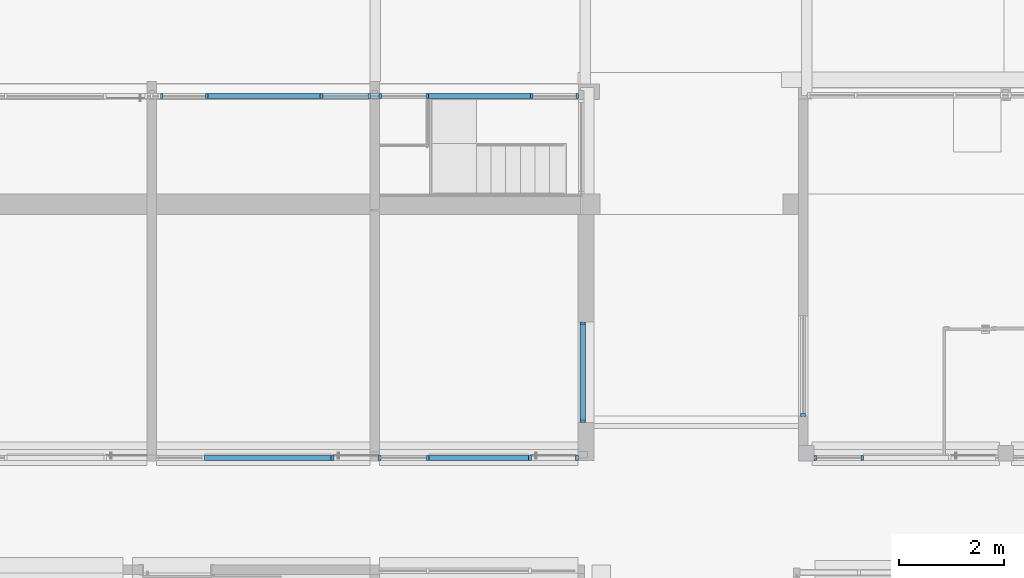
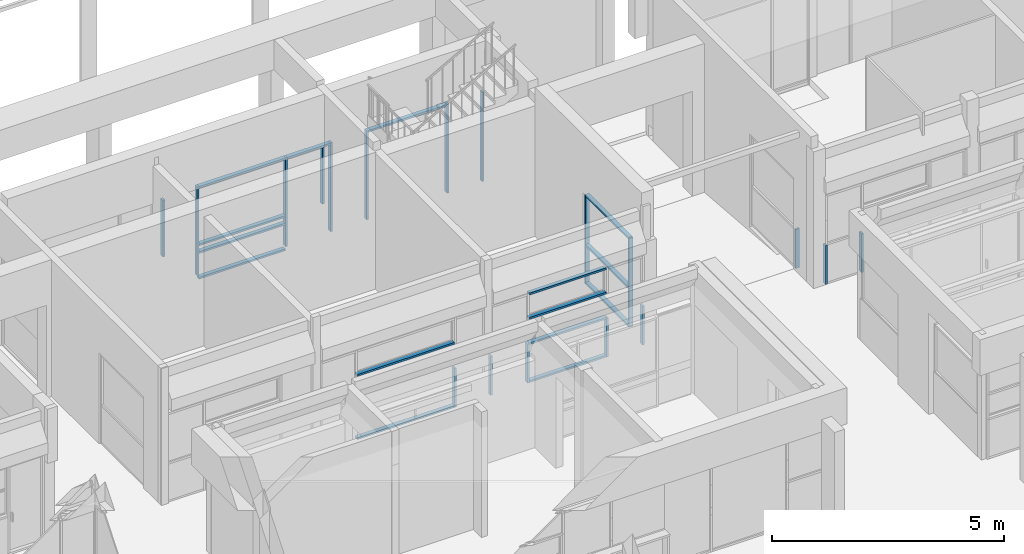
# One storey, part 9 of 117: 35 members, 6 elements without a shape of their own.
"""IFC4 building model written with IfcOpenShell, lengths in metres."""

import ifcopenshell
import ifcopenshell.guid

model = None  # the IFC model being written
_history = None  # IfcOwnerHistory: only IFC2X3 demands one
_inside = {}  # id of a spatial element -> (the spatial element, [elements in it])
_under = {}  # id of a project, library or spatial element -> (it, [spatial elements below it])
_declared = {}  # id of a project -> (the project, [libraries it declares])
_typed = {}  # id of a type object -> (the type object, [elements of that type])
_made_of = {}  # id of a material, layer set ... -> (it, [elements and type objects made of it])


def new_model(schema):
    """Start an empty IFC model of exactly this schema.

    Asked for "IFC4X3", IfcOpenShell would pick the latest addendum, in which some entities
    have other attributes; the version numbers below select the first issue.
    IFC2X3 requires an IfcOwnerHistory on every rooted entity: one is made here for all.
    """
    global model, _history
    if schema == "IFC4X3":
        model = ifcopenshell.file(schema_version=(4, 3, 0, 0))
    else:
        model = ifcopenshell.file(schema=schema)
    _inside.clear()
    _under.clear()
    _declared.clear()
    _typed.clear()
    _made_of.clear()
    _history = None
    if model.schema == "IFC2X3":
        org = make("IfcOrganization", Name="unknown")
        user = make(
            "IfcPersonAndOrganization",
            ThePerson=make("IfcPerson", FamilyName="unknown"),
            TheOrganization=org,
        )
        app = make(
            "IfcApplication",
            ApplicationDeveloper=org,
            Version="unknown",
            ApplicationFullName="unknown",
            ApplicationIdentifier="unknown",
        )
        _history = make(
            "IfcOwnerHistory",
            OwningUser=user,
            OwningApplication=app,
            ChangeAction="ADDED",
            CreationDate=0,
        )
    return model


def make(cls, **values):
    """One entity of the class cls with the attributes given. An attribute that is None is left unset."""
    return model.create_entity(
        cls, **{name: value for name, value in values.items() if value is not None}
    )


def entity(cls, *values):
    """Any entity or typed value of the class cls, its attributes in the order of the schema. None: left unset."""
    e = model.create_entity(cls)
    for i, value in enumerate(values):
        if value is not None:
            e[i] = value
    return e


def rooted(cls, **values):
    """An entity with a GlobalId (a new one), such as an element, a storey or a relation."""
    return make(cls, GlobalId=ifcopenshell.guid.new(), OwnerHistory=_history, **values)


def si_unit(unit_type, name, prefix=None):
    """IfcSIUnit, for example si_unit("LENGTHUNIT", "METRE", prefix="MILLI")."""
    return make("IfcSIUnit", UnitType=unit_type, Prefix=prefix, Name=name)


def converted_unit(unit_type, name, factor, base, dimensions=None, offset=None):
    """IfcConversionBasedUnit, such as the inch: factor (a typed value) times the base unit."""
    return make(
        "IfcConversionBasedUnit"
        if offset is None
        else "IfcConversionBasedUnitWithOffset",
        ConversionOffset=offset,
        Dimensions=None
        if dimensions is None
        else entity("IfcDimensionalExponents", *dimensions),
        UnitType=unit_type,
        Name=name,
        ConversionFactor=make(
            "IfcMeasureWithUnit", ValueComponent=factor, UnitComponent=base
        ),
    )


def derived_unit(unit_type, elements):
    """IfcDerivedUnit: a product of units, each with its exponent."""
    return make(
        "IfcDerivedUnit",
        Elements=[
            make("IfcDerivedUnitElement", Unit=unit, Exponent=power)
            for unit, power in elements
        ],
        UnitType=unit_type,
    )


def assignment(units):
    """IfcUnitAssignment: the units of a project."""
    return None if units is None else make("IfcUnitAssignment", Units=units)


def point(xyz):
    """IfcCartesianPoint."""
    return None if xyz is None else make("IfcCartesianPoint", Coordinates=xyz)


def direction(xyz):
    """IfcDirection."""
    return None if xyz is None else make("IfcDirection", DirectionRatios=xyz)


def frame(location, z_axis=None, x_axis=None):
    """IfcAxis2Placement3D, a coordinate frame: its origin and axes. An axis left out is left unset."""
    return make(
        "IfcAxis2Placement3D",
        Location=point(location),
        Axis=direction(z_axis),
        RefDirection=direction(x_axis),
    )


def origin():
    """The frame at (0, 0, 0) with its axes left unset."""
    return frame((0.0, 0.0, 0.0))


def place(relative_to, where):
    """IfcLocalPlacement: puts the frame where relative to a parent placement (None: the world)."""
    return make(
        "IfcLocalPlacement", PlacementRelTo=relative_to, RelativePlacement=where
    )


def context(
    kind, dimensions, precision=None, world=None, true_north=None, identifier=None
):
    """IfcGeometricRepresentationContext, for example the 3D "Model" context."""
    return make(
        "IfcGeometricRepresentationContext",
        ContextIdentifier=identifier,
        ContextType=kind,
        CoordinateSpaceDimension=dimensions,
        Precision=precision,
        WorldCoordinateSystem=world,
        TrueNorth=true_north,
    )


def subcontext(parent, identifier, kind, view, scale=None):
    """IfcGeometricRepresentationSubContext, for example "Body" below "Model"."""
    return make(
        "IfcGeometricRepresentationSubContext",
        ContextIdentifier=identifier,
        ContextType=kind,
        ParentContext=parent,
        TargetScale=scale,
        TargetView=view,
    )


def project(units=None, contexts=None):
    """IfcProject with its units and contexts."""
    return rooted(
        "IfcProject",
        Name="project",
        RepresentationContexts=contexts,
        UnitsInContext=assignment(units),
    )


def spatial(cls, under=None, at=None, **own):
    """A site, building, storey or space (cls), placed at a placement, below another one or the project."""
    s = rooted(cls, ObjectPlacement=at, **own)
    if under is not None:
        _under.setdefault(under.id(), (under, []))[1].append(s)
    return s


def point_list(points):
    """IfcCartesianPointList2D or 3D."""
    cls = (
        "IfcCartesianPointList2D" if len(points[0]) == 2 else "IfcCartesianPointList3D"
    )
    return make(cls, CoordList=points)


def indexed_curve(points, segments=None, self_intersect=None):
    """IfcIndexedPolyCurve: lines and arcs through numbered points (the first is 1)."""
    return make(
        "IfcIndexedPolyCurve",
        Points=point_list(points),
        Segments=segments,
        SelfIntersect=self_intersect,
    )


def outline(outer, holes=None, kind="AREA"):
    """IfcArbitraryClosedProfileDef: a profile drawn as a closed curve; with holes, ...WithVoids."""
    if holes is None:
        return make("IfcArbitraryClosedProfileDef", ProfileType=kind, OuterCurve=outer)
    return make(
        "IfcArbitraryProfileDefWithVoids",
        ProfileType=kind,
        OuterCurve=outer,
        InnerCurves=holes,
    )


def extrude(swept, where, along, depth):
    """IfcExtrudedAreaSolid: the profile swept, set in the frame where, extruded along a direction by depth."""
    return make(
        "IfcExtrudedAreaSolid",
        SweptArea=swept,
        Position=where,
        ExtrudedDirection=direction(along),
        Depth=depth,
    )


def shape(context_of_items, identifier, shape_type, items):
    """IfcShapeRepresentation: the items that make up one representation, for example the "Body"."""
    return make(
        "IfcShapeRepresentation",
        ContextOfItems=context_of_items,
        RepresentationIdentifier=identifier,
        RepresentationType=shape_type,
        Items=items,
    )


def source(mapping_origin, context_of_items, identifier, shape_type, items):
    """IfcRepresentationMap: a shape defined once, which mapped items show again and again."""
    return make(
        "IfcRepresentationMap",
        MappingOrigin=mapping_origin,
        MappedRepresentation=shape(context_of_items, identifier, shape_type, items),
    )


def transform(
    local_origin,
    x_axis=None,
    y_axis=None,
    z_axis=None,
    scale=None,
    scale2=None,
    scale3=None,
    uniform=True,
):
    """IfcCartesianTransformationOperator3D, or its non-uniform kind. x_axis, y_axis, z_axis: its Axis1, 2, 3."""
    if uniform:
        return make(
            "IfcCartesianTransformationOperator3D",
            Axis1=direction(x_axis),
            Axis2=direction(y_axis),
            LocalOrigin=point(local_origin),
            Scale=scale,
            Axis3=direction(z_axis),
        )
    return make(
        "IfcCartesianTransformationOperator3DnonUniform",
        Axis1=direction(x_axis),
        Axis2=direction(y_axis),
        LocalOrigin=point(local_origin),
        Scale=scale,
        Axis3=direction(z_axis),
        Scale2=scale2,
        Scale3=scale3,
    )


def mapped(mapping_source, mapping_target):
    """IfcMappedItem: shows the shape of a source again, moved by a transform."""
    return make(
        "IfcMappedItem", MappingSource=mapping_source, MappingTarget=mapping_target
    )


def material(Name=None, Category=None):
    """IfcMaterial."""
    return make("IfcMaterial", Name=Name, Category=Category)


def made_of(thing, what):
    """Note that an element or type object is made of a material, layer set ...; save() writes the relation."""
    if what is not None:
        _made_of.setdefault(what.id(), (what, []))[1].append(thing)
    return thing


def type_object(cls, material=None, **own):
    """A type object (cls), such as IfcWallType, which elements share."""
    return made_of(rooted(cls, **own), material)


def type_shapes(of_type, sources):
    """Give a type object the sources (RepresentationMaps) that its elements show as mapped items."""
    of_type.RepresentationMaps = sources


def element(
    cls,
    number,
    at=None,
    inside=None,
    cuts=None,
    type_object=None,
    material=None,
    context=None,
    identifier="Body",
    shape_type=None,
    held_by="IfcProductDefinitionShape",
    body=None,
    shapes=None,
    **own,
):
    """One element of the class cls, such as IfcWall. Its Tag is "e" and its number.

    at: its placement. inside: the storey or other place that contains it. cuts: it is an
    opening in that element (IfcRelVoidsElement). A single representation is given by context,
    identifier, shape_type and body (its items); several are given by shapes. held_by: the class
    of the entity that holds the representations. save() writes the other relations.
    """
    e = rooted(cls, Tag="e%d" % number, ObjectPlacement=at, **own)
    if body is not None:
        shapes = [shape(context, identifier, shape_type, body)]
    if shapes is not None:
        e.Representation = make(held_by, Representations=shapes)
    if inside is not None:
        _inside.setdefault(inside.id(), (inside, []))[1].append(e)
    if cuts is not None:
        rooted(
            "IfcRelVoidsElement", RelatingBuildingElement=cuts, RelatedOpeningElement=e
        )
    if type_object is not None:
        _typed.setdefault(type_object.id(), (type_object, []))[1].append(e)
    return made_of(e, material)


def aggregate(whole, parts):
    """IfcRelAggregates: a whole, such as a stair, and the parts it consists of."""
    return rooted("IfcRelAggregates", RelatingObject=whole, RelatedObjects=parts)


def save(model, path):
    """Write the relations noted so far, then the file.

    IfcRelAggregates (storeys below a building ...), IfcRelContainedInSpatialStructure (elements
    in a storey), IfcRelDefinesByType, IfcRelAssociatesMaterial and IfcRelDeclares: one each for
    every whole, place, type object, material and project.
    """
    for whole, parts in _under.values():
        aggregate(whole, parts)
    for where, things in _inside.values():
        rooted(
            "IfcRelContainedInSpatialStructure",
            RelatedElements=things,
            RelatingStructure=where,
        )
    for kind, things in _typed.values():
        rooted("IfcRelDefinesByType", RelatedObjects=things, RelatingType=kind)
    for what, things in _made_of.values():
        rooted("IfcRelAssociatesMaterial", RelatedObjects=things, RelatingMaterial=what)
    for by, libraries in _declared.values():
        rooted("IfcRelDeclares", RelatingContext=by, RelatedDefinitions=libraries)
    model.write(path)


model = new_model("IFC4")

# Units and contexts
model_context = context("Model", 3, precision=1e-05, world=origin(), true_north=direction((6.123031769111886e-17, 1.0)))
body_context = subcontext(model_context, "Body", "Model", "MODEL_VIEW")
ifc_project = project(units=[si_unit("LENGTHUNIT", "METRE"), si_unit("AREAUNIT", "SQUARE_METRE"), si_unit("VOLUMEUNIT", "CUBIC_METRE"), converted_unit("PLANEANGLEUNIT", "DEGREE", entity("IfcRatioMeasure", 0.017453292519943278), si_unit("PLANEANGLEUNIT", "RADIAN"), dimensions=[0, 0, 0, 0, 0, 0, 0]), si_unit("MASSUNIT", "GRAM", prefix="KILO"), derived_unit("MASSDENSITYUNIT", [(si_unit("MASSUNIT", "GRAM", prefix="KILO"), 1), (si_unit("LENGTHUNIT", "METRE"), -3)]), derived_unit("MOMENTOFINERTIAUNIT", [(si_unit("LENGTHUNIT", "METRE"), 4)]), si_unit("TIMEUNIT", "SECOND"), si_unit("FREQUENCYUNIT", "HERTZ"), si_unit("THERMODYNAMICTEMPERATUREUNIT", "DEGREE_CELSIUS"), derived_unit("THERMALTRANSMITTANCEUNIT", [(si_unit("MASSUNIT", "GRAM", prefix="KILO"), 1), (si_unit("THERMODYNAMICTEMPERATUREUNIT", "KELVIN"), -1), (si_unit("TIMEUNIT", "SECOND"), -3)]), derived_unit("VOLUMETRICFLOWRATEUNIT", [(si_unit("LENGTHUNIT", "METRE"), 3), (si_unit("TIMEUNIT", "SECOND"), -1)]), derived_unit("MASSFLOWRATEUNIT", [(si_unit("MASSUNIT", "GRAM", prefix="KILO"), 1), (si_unit("TIMEUNIT", "SECOND"), -1)]), derived_unit("ROTATIONALFREQUENCYUNIT", [(si_unit("TIMEUNIT", "SECOND"), -1)]), si_unit("ELECTRICCURRENTUNIT", "AMPERE"), si_unit("ELECTRICVOLTAGEUNIT", "VOLT"), si_unit("POWERUNIT", "WATT"), si_unit("FORCEUNIT", "NEWTON", prefix="KILO"), si_unit("ILLUMINANCEUNIT", "LUX"), si_unit("LUMINOUSFLUXUNIT", "LUMEN"), si_unit("LUMINOUSINTENSITYUNIT", "CANDELA"), derived_unit("USERDEFINED", [(si_unit("MASSUNIT", "GRAM", prefix="KILO"), -1), (si_unit("LENGTHUNIT", "METRE"), -2), (si_unit("TIMEUNIT", "SECOND"), 3), (si_unit("LUMINOUSFLUXUNIT", "LUMEN"), 1)]), derived_unit("SOUNDPOWERUNIT", [(si_unit("MASSUNIT", "GRAM", prefix="KILO"), 1), (si_unit("LENGTHUNIT", "METRE"), 2), (si_unit("TIMEUNIT", "SECOND"), -3)]), derived_unit("SOUNDPRESSUREUNIT", [(si_unit("MASSUNIT", "GRAM", prefix="KILO"), 1), (si_unit("LENGTHUNIT", "METRE"), -1), (si_unit("TIMEUNIT", "SECOND"), -2)]), derived_unit("LINEARVELOCITYUNIT", [(si_unit("LENGTHUNIT", "METRE"), 1), (si_unit("TIMEUNIT", "SECOND"), -1)]), si_unit("PRESSUREUNIT", "PASCAL"), derived_unit("USERDEFINED", [(si_unit("LENGTHUNIT", "METRE"), -2), (si_unit("MASSUNIT", "GRAM", prefix="KILO"), 1), (si_unit("TIMEUNIT", "SECOND"), -2)]), derived_unit("LINEARFORCEUNIT", [(si_unit("MASSUNIT", "GRAM", prefix="KILO"), 1), (si_unit("LENGTHUNIT", "METRE"), 1), (si_unit("TIMEUNIT", "SECOND"), -2), (si_unit("LENGTHUNIT", "METRE"), -1)]), derived_unit("PLANARFORCEUNIT", [(si_unit("MASSUNIT", "GRAM", prefix="KILO"), 1), (si_unit("LENGTHUNIT", "METRE"), 1), (si_unit("TIMEUNIT", "SECOND"), -2), (si_unit("LENGTHUNIT", "METRE"), -2)])], contexts=[model_context])

# Site, building, storey
site_placement = place(None, origin())
site = spatial("IfcSite", under=ifc_project, at=site_placement, Name="Superficie", CompositionType="ELEMENT")
building_placement = place(site_placement, origin())
building = spatial("IfcBuilding", under=site, at=building_placement, CompositionType="ELEMENT")
storey_placement = place(building_placement, origin())
storey = spatial("IfcBuildingStorey", under=building, at=storey_placement, Name="Nivel 0", CompositionType="ELEMENT", Elevation=0.0)

# Curtain wall, member
curtain_wall_type = type_object("IfcCurtainWallType", Name="Muro cortina:Muro cortina - simple", PredefinedType="NOTDEFINED")
curtain_wall_1_placement = place(storey_placement, origin())
curtain_wall_1 = element("IfcCurtainWall", 1, at=curtain_wall_1_placement, inside=storey, type_object=curtain_wall_type, Name="Muro cortina:Muro cortina - simple", ObjectType="Muro cortina:Muro cortina - simple", PredefinedType="NOTDEFINED")
ifc_material = material(Name="<Unnamed>")
member_type_1 = type_object("IfcMemberType", Name="Montante rectangular:Montante rectangular - 5 x 10 cm", PredefinedType="MULLION", material=ifc_material)
shared_shape_1 = source(origin(), body_context, "Body", "SweptSolid", [
    extrude(outline(indexed_curve([(-0.05, -0.025), (0.05, -0.025), (0.05, 0.025), (-0.05, 0.025), (-0.05, -0.025)], self_intersect=False)), frame((0.0, 0.0, -1.0250000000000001), z_axis=(0.0, 0.0, 1.0), x_axis=(0.0, -1.0, 0.0)), (0.0, 0.0, 1.0), 1.0250000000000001),
])
type_shapes(member_type_1, [shared_shape_1])
member_1_placement = place(curtain_wall_1_placement, frame((-8.1536665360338, 5.715829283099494, -0.005000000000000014), z_axis=(0.0, 0.0, -1.0), x_axis=(1.0, 0.0, 0.0)))
member_1 = element("IfcMember", 2, at=member_1_placement, type_object=member_type_1, material=ifc_material, Name="Montante rectangular:Montante rectangular - 5 x 10 cm", ObjectType="Montante rectangular:Montante rectangular - 5 x 10 cm", PredefinedType="MULLION", context=body_context, shape_type="MappedRepresentation", body=[
    mapped(shared_shape_1, transform((0.0, 0.0, 0.0), scale=1.0)),
])

# Curtain wall, members
curtain_wall_2_placement = place(storey_placement, origin())
curtain_wall_2 = element("IfcCurtainWall", 3, at=curtain_wall_2_placement, inside=storey, type_object=curtain_wall_type, Name="Muro cortina:Muro cortina - simple", ObjectType="Muro cortina:Muro cortina - simple", PredefinedType="NOTDEFINED")
member_2_placement = place(curtain_wall_2_placement, frame((-4.373200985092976, 5.715829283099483, -0.005000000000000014), z_axis=(0.0, 0.0, -1.0), x_axis=(1.0, 0.0, 0.0)))
member_2 = element("IfcMember", 4, at=member_2_placement, type_object=member_type_1, material=ifc_material, Name="Montante rectangular:Montante rectangular - 5 x 10 cm", ObjectType="Montante rectangular:Montante rectangular - 5 x 10 cm", PredefinedType="MULLION", context=body_context, shape_type="MappedRepresentation", body=[
    mapped(shared_shape_1, transform((0.0, 0.0, 0.0), scale=1.0)),
])
member_3_placement = place(curtain_wall_2_placement, frame((-6.3336665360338, 5.715829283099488, -0.005000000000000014), z_axis=(0.0, 0.0, -1.0), x_axis=(1.0, 0.0, 0.0)))
member_3 = element("IfcMember", 5, at=member_3_placement, type_object=member_type_1, material=ifc_material, Name="Montante rectangular:Montante rectangular - 5 x 10 cm", ObjectType="Montante rectangular:Montante rectangular - 5 x 10 cm", PredefinedType="MULLION", context=body_context, shape_type="MappedRepresentation", body=[
    mapped(shared_shape_1, transform((0.0, 0.0, 0.0), scale=1.0)),
])

curtain_wall_3_placement = place(storey_placement, origin())
curtain_wall_3 = element("IfcCurtainWall", 6, at=curtain_wall_3_placement, inside=storey, type_object=curtain_wall_type, Name="Muro cortina:Muro cortina - simple", ObjectType="Muro cortina:Muro cortina - simple", PredefinedType="NOTDEFINED")
member_4_placement = place(curtain_wall_3_placement, frame((-3.363200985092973, 6.4158292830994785, -0.004999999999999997), z_axis=(0.0, 0.0, -1.0), x_axis=(0.0, -1.0, 0.0)))
member_4 = element("IfcMember", 7, at=member_4_placement, type_object=member_type_1, material=ifc_material, Name="Montante rectangular:Montante rectangular - 5 x 10 cm", ObjectType="Montante rectangular:Montante rectangular - 5 x 10 cm", PredefinedType="MULLION", context=body_context, shape_type="MappedRepresentation", body=[
    mapped(shared_shape_1, transform((0.0, 0.0, 0.0), scale=1.0)),
])
member_5_placement = place(curtain_wall_3_placement, frame((-3.3632009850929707, 8.293063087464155, -0.00499999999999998), z_axis=(0.0, 0.0, -1.0), x_axis=(0.0, -1.0, 0.0)))
member_5 = element("IfcMember", 8, at=member_5_placement, type_object=member_type_1, material=ifc_material, Name="Montante rectangular:Montante rectangular - 5 x 10 cm", ObjectType="Montante rectangular:Montante rectangular - 5 x 10 cm", PredefinedType="MULLION", context=body_context, shape_type="MappedRepresentation", body=[
    mapped(shared_shape_1, transform((0.0, 0.0, 0.0), scale=1.0)),
])

# Curtain wall, member
curtain_wall_4_placement = place(storey_placement, origin())
curtain_wall_4 = element("IfcCurtainWall", 9, at=curtain_wall_4_placement, inside=storey, type_object=curtain_wall_type, Name="Muro cortina:Muro cortina - simple", ObjectType="Muro cortina:Muro cortina - simple", PredefinedType="NOTDEFINED")
member_6_placement = place(curtain_wall_4_placement, frame((0.8515520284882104, 6.5367397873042, -0.004999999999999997), z_axis=(0.0, 0.0, -1.0), x_axis=(0.0, -1.0, 0.0)))
member_6 = element("IfcMember", 10, at=member_6_placement, type_object=member_type_1, material=ifc_material, Name="Montante rectangular:Montante rectangular - 5 x 10 cm", ObjectType="Montante rectangular:Montante rectangular - 5 x 10 cm", PredefinedType="MULLION", context=body_context, shape_type="MappedRepresentation", body=[
    mapped(shared_shape_1, transform((0.0, 0.0, 0.0), scale=1.0)),
])
aggregate(curtain_wall_4, [member_6])

curtain_wall_5_placement = place(storey_placement, origin())
curtain_wall_5 = element("IfcCurtainWall", 11, at=curtain_wall_5_placement, inside=storey, type_object=curtain_wall_type, Name="Muro cortina:Muro cortina - simple", ObjectType="Muro cortina:Muro cortina - simple", PredefinedType="NOTDEFINED")
member_7_placement = place(curtain_wall_5_placement, frame((1.9815520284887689, 5.716739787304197, -0.005000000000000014), z_axis=(0.0, 0.0, -1.0), x_axis=(1.0, 0.0, 0.0)))
member_7 = element("IfcMember", 12, at=member_7_placement, type_object=member_type_1, material=ifc_material, Name="Montante rectangular:Montante rectangular - 5 x 10 cm", ObjectType="Montante rectangular:Montante rectangular - 5 x 10 cm", PredefinedType="MULLION", context=body_context, shape_type="MappedRepresentation", body=[
    mapped(shared_shape_1, transform((0.0, 0.0, 0.0), scale=1.0)),
])

# Member
member_type_2 = type_object("IfcMemberType", Name="Montante rectangular:Montante rectangular - 5 x 10 cm", PredefinedType="MULLION", material=ifc_material)
shared_shape_2 = source(origin(), body_context, "Body", "SweptSolid", [
    extrude(outline(indexed_curve([(-0.05, -0.025), (0.05, -0.025), (0.05, 0.025), (-0.05, 0.025), (-0.05, -0.025)], self_intersect=False)), frame((0.0, 0.0, -1.3099999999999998), z_axis=(0.0, 0.0, 1.0), x_axis=(0.0, -1.0, 0.0)), (0.0, 0.0, 1.0), 1.3099999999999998),
])
type_shapes(member_type_2, [shared_shape_2])
member_8_placement = place(curtain_wall_3_placement, frame((-3.363200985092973, 6.4158292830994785, 1.0200000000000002), z_axis=(0.0, 0.0, -1.0), x_axis=(0.0, -1.0, 0.0)))
member_8 = element("IfcMember", 13, at=member_8_placement, type_object=member_type_2, material=ifc_material, Name="Montante rectangular:Montante rectangular - 5 x 10 cm", ObjectType="Montante rectangular:Montante rectangular - 5 x 10 cm", PredefinedType="MULLION", context=body_context, shape_type="MappedRepresentation", body=[
    mapped(shared_shape_2, transform((0.0, 0.0, 0.0), scale=1.0)),
])

member_9_placement = place(curtain_wall_3_placement, frame((-3.3632009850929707, 8.293063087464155, 1.0200000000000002), z_axis=(0.0, 0.0, -1.0), x_axis=(0.0, -1.0, 0.0)))
member_9 = element("IfcMember", 14, at=member_9_placement, type_object=member_type_2, material=ifc_material, Name="Montante rectangular:Montante rectangular - 5 x 10 cm", ObjectType="Montante rectangular:Montante rectangular - 5 x 10 cm", PredefinedType="MULLION", context=body_context, shape_type="MappedRepresentation", body=[
    mapped(shared_shape_2, transform((0.0, 0.0, 0.0), scale=1.0)),
])

member_type_3 = type_object("IfcMemberType", Name="Montante rectangular:Montante rectangular - 5 x 10 cm", PredefinedType="MULLION", material=ifc_material)
shared_shape_3 = source(origin(), body_context, "Body", "SweptSolid", [
    extrude(outline(indexed_curve([(-0.05, -0.025), (0.05, -0.025), (0.05, 0.025), (-0.05, 0.025), (-0.05, -0.025)], self_intersect=False)), frame((-0.025, 0.0, -1.877233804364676), z_axis=(0.0, 0.0, 1.0), x_axis=(0.0, -1.0, 0.0)), (0.0, 0.0, 1.0), 1.8772338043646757),
])
type_shapes(member_type_3, [shared_shape_3])
member_10_placement = place(curtain_wall_3_placement, frame((-3.363200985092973, 6.4158292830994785, 2.3499999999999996), z_axis=(0.0, -1.0, 0.0), x_axis=(0.0, 0.0, 1.0)))
member_10 = element("IfcMember", 15, at=member_10_placement, type_object=member_type_3, material=ifc_material, Name="Montante rectangular:Montante rectangular - 5 x 10 cm", ObjectType="Montante rectangular:Montante rectangular - 5 x 10 cm", PredefinedType="MULLION", context=body_context, shape_type="MappedRepresentation", body=[
    mapped(shared_shape_3, transform((0.0, 0.0, 0.0), scale=1.0)),
])

member_type_4 = type_object("IfcMemberType", Name="Montante rectangular:Montante rectangular - 5 x 10 cm", PredefinedType="MULLION", material=ifc_material)
shared_shape_4 = source(origin(), body_context, "Body", "SweptSolid", [
    extrude(outline(indexed_curve([(-0.05, -0.025), (0.05, -0.025), (0.05, 0.025), (-0.05, 0.025), (-0.05, -0.025)], self_intersect=False)), frame((0.0, 0.0, -1.827233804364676), z_axis=(0.0, 0.0, 1.0), x_axis=(0.0, -1.0, 0.0)), (0.0, 0.0, 1.0), 1.8272338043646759),
])
type_shapes(member_type_4, [shared_shape_4])
member_11_placement = place(curtain_wall_3_placement, frame((-3.363200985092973, 6.440829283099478, 1.0200000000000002), z_axis=(0.0, -1.0, 0.0), x_axis=(0.0, 0.0, 1.0)))
member_11 = element("IfcMember", 16, at=member_11_placement, type_object=member_type_4, material=ifc_material, Name="Montante rectangular:Montante rectangular - 5 x 10 cm", ObjectType="Montante rectangular:Montante rectangular - 5 x 10 cm", PredefinedType="MULLION", context=body_context, shape_type="MappedRepresentation", body=[
    mapped(shared_shape_4, transform((0.0, 0.0, 0.0), scale=1.0)),
])

member_12_placement = place(curtain_wall_3_placement, frame((-3.363200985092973, 6.440829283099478, 0.020000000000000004), z_axis=(0.0, -1.0, 0.0), x_axis=(0.0, 0.0, 1.0)))
member_12 = element("IfcMember", 17, at=member_12_placement, type_object=member_type_4, material=ifc_material, Name="Montante rectangular:Montante rectangular - 5 x 10 cm", ObjectType="Montante rectangular:Montante rectangular - 5 x 10 cm", PredefinedType="MULLION", context=body_context, shape_type="MappedRepresentation", body=[
    mapped(shared_shape_4, transform((0.0, 0.0, 0.0), scale=1.0)),
])

aggregate(curtain_wall_3, [member_10, member_4, member_5, member_8, member_9, member_11, member_12])

member_type_5 = type_object("IfcMemberType", Name="Montante rectangular:Montante rectangular - 5 x 10 cm", PredefinedType="MULLION", material=ifc_material)
shared_shape_5 = source(origin(), body_context, "Body", "SweptSolid", [
    extrude(outline(indexed_curve([(-0.05, -0.025), (0.05, -0.025), (0.05, 0.025), (-0.05, 0.025), (-0.05, -0.025)], self_intersect=False)), frame((0.0, 0.0, -1.0250000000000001), z_axis=(0.0, 0.0, 1.0), x_axis=(0.0, -1.0, 0.0)), (0.0, 0.0, 1.0), 1.0250000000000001),
])
type_shapes(member_type_5, [shared_shape_5])
member_13_placement = place(curtain_wall_1_placement, frame((-7.2536665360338, 5.715829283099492, -0.005000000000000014), z_axis=(0.0, 0.0, -1.0), x_axis=(1.0, 0.0, 0.0)))
member_13 = element("IfcMember", 18, at=member_13_placement, type_object=member_type_5, material=ifc_material, Name="Montante rectangular:Montante rectangular - 5 x 10 cm", ObjectType="Montante rectangular:Montante rectangular - 5 x 10 cm", PredefinedType="MULLION", context=body_context, shape_type="MappedRepresentation", body=[
    mapped(shared_shape_5, transform((0.0, 0.0, 0.0), scale=1.0)),
])

member_14_placement = place(curtain_wall_2_placement, frame((-3.473200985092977, 5.715829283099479, -0.005000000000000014), z_axis=(0.0, 0.0, -1.0), x_axis=(1.0, 0.0, 0.0)))
member_14 = element("IfcMember", 19, at=member_14_placement, type_object=member_type_5, material=ifc_material, Name="Montante rectangular:Montante rectangular - 5 x 10 cm", ObjectType="Montante rectangular:Montante rectangular - 5 x 10 cm", PredefinedType="MULLION", context=body_context, shape_type="MappedRepresentation", body=[
    mapped(shared_shape_5, transform((0.0, 0.0, 0.0), scale=1.0)),
])

member_15_placement = place(curtain_wall_5_placement, frame((1.0815520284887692, 5.7167397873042, -0.005000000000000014), z_axis=(0.0, 0.0, -1.0), x_axis=(1.0, 0.0, 0.0)))
member_15 = element("IfcMember", 20, at=member_15_placement, type_object=member_type_5, material=ifc_material, Name="Montante rectangular:Montante rectangular - 5 x 10 cm", ObjectType="Montante rectangular:Montante rectangular - 5 x 10 cm", PredefinedType="MULLION", context=body_context, shape_type="MappedRepresentation", body=[
    mapped(shared_shape_5, transform((0.0, 0.0, 0.0), scale=1.0)),
])

aggregate(curtain_wall_5, [member_15, member_7])

member_type_6 = type_object("IfcMemberType", Name="Montante rectangular:Montante rectangular - 5 x 10 cm", PredefinedType="MULLION", material=ifc_material)
shared_shape_6 = source(origin(), body_context, "Body", "SweptSolid", [
    extrude(outline(indexed_curve([(-0.05, -0.025), (0.05, -0.025), (0.05, 0.025), (-0.05, 0.025), (-0.05, -0.025)], self_intersect=False)), frame((0.0, 0.0, -2.4195344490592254), z_axis=(0.0, 0.0, 1.0), x_axis=(0.0, -1.0, 0.0)), (0.0, 0.0, 1.0), 2.419534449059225),
])
type_shapes(member_type_6, [shared_shape_6])
member_16_placement = place(curtain_wall_1_placement, frame((-8.1786665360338, 5.715829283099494, 0.019999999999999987), z_axis=(1.0, 0.0, 0.0), x_axis=(0.0, 0.0, 1.0)))
member_16 = element("IfcMember", 21, at=member_16_placement, type_object=member_type_6, material=ifc_material, Name="Montante rectangular:Montante rectangular - 5 x 10 cm", ObjectType="Montante rectangular:Montante rectangular - 5 x 10 cm", PredefinedType="MULLION", context=body_context, shape_type="MappedRepresentation", body=[
    mapped(shared_shape_6, transform((0.0, 0.0, 0.0), scale=1.0)),
])

member_17_placement = place(curtain_wall_1_placement, frame((-8.1786665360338, 5.715829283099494, 1.685), z_axis=(1.0, 0.0, 0.0), x_axis=(0.0, 0.0, 1.0)))
member_17 = element("IfcMember", 22, at=member_17_placement, type_object=member_type_6, material=ifc_material, Name="Montante rectangular:Montante rectangular - 5 x 10 cm", ObjectType="Montante rectangular:Montante rectangular - 5 x 10 cm", PredefinedType="MULLION", context=body_context, shape_type="MappedRepresentation", body=[
    mapped(shared_shape_6, transform((0.0, 0.0, 0.0), scale=1.0)),
])

aggregate(curtain_wall_1, [member_13, member_1, member_16, member_17])

member_type_7 = type_object("IfcMemberType", Name="Montante rectangular:Montante rectangular - 5 x 10 cm", PredefinedType="MULLION", material=ifc_material)
shared_shape_7 = source(origin(), body_context, "Body", "SweptSolid", [
    extrude(outline(indexed_curve([(-0.05, -0.025), (0.05, -0.025), (0.05, 0.025), (-0.05, 0.025), (-0.05, -0.025)], self_intersect=False)), frame((-0.025, 0.0, -1.9104655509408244), z_axis=(0.0, 0.0, 1.0), x_axis=(0.0, -1.0, 0.0)), (0.0, 0.0, 1.0), 1.9104655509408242),
])
type_shapes(member_type_7, [shared_shape_7])
member_18_placement = place(curtain_wall_2_placement, frame((-4.398200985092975, 5.715829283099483, 2.3499999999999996), z_axis=(1.0, 0.0, 0.0), x_axis=(0.0, 0.0, 1.0)))
member_18 = element("IfcMember", 23, at=member_18_placement, type_object=member_type_7, material=ifc_material, Name="Montante rectangular:Montante rectangular - 5 x 10 cm", ObjectType="Montante rectangular:Montante rectangular - 5 x 10 cm", PredefinedType="MULLION", context=body_context, shape_type="MappedRepresentation", body=[
    mapped(shared_shape_7, transform((0.0, 0.0, 0.0), scale=1.0)),
])

member_type_8 = type_object("IfcMemberType", Name="Montante rectangular:Montante rectangular - 5 x 10 cm", PredefinedType="MULLION", material=ifc_material)
shared_shape_8 = source(origin(), body_context, "Body", "SweptSolid", [
    extrude(outline(indexed_curve([(-0.05, -0.025), (0.05, -0.025), (0.05, 0.025), (-0.05, 0.025), (-0.05, -0.025)], self_intersect=False)), frame((0.0, 0.0, -1.9104655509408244), z_axis=(0.0, 0.0, 1.0), x_axis=(0.0, -1.0, 0.0)), (0.0, 0.0, 1.0), 1.910465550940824),
])
type_shapes(member_type_8, [shared_shape_8])
member_19_placement = place(curtain_wall_2_placement, frame((-4.398200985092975, 5.715829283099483, 1.02), z_axis=(1.0, 0.0, 0.0), x_axis=(0.0, 0.0, 1.0)))
member_19 = element("IfcMember", 24, at=member_19_placement, type_object=member_type_8, material=ifc_material, Name="Montante rectangular:Montante rectangular - 5 x 10 cm", ObjectType="Montante rectangular:Montante rectangular - 5 x 10 cm", PredefinedType="MULLION", context=body_context, shape_type="MappedRepresentation", body=[
    mapped(shared_shape_8, transform((0.0, 0.0, 0.0), scale=1.0)),
])

member_20_placement = place(curtain_wall_2_placement, frame((-4.398200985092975, 5.715829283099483, 0.019999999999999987), z_axis=(1.0, 0.0, 0.0), x_axis=(0.0, 0.0, 1.0)))
member_20 = element("IfcMember", 25, at=member_20_placement, type_object=member_type_8, material=ifc_material, Name="Montante rectangular:Montante rectangular - 5 x 10 cm", ObjectType="Montante rectangular:Montante rectangular - 5 x 10 cm", PredefinedType="MULLION", context=body_context, shape_type="MappedRepresentation", body=[
    mapped(shared_shape_8, transform((0.0, 0.0, 0.0), scale=1.0)),
])

member_21_placement = place(curtain_wall_2_placement, frame((-4.398200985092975, 5.715829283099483, 1.685), z_axis=(1.0, 0.0, 0.0), x_axis=(0.0, 0.0, 1.0)))
member_21 = element("IfcMember", 26, at=member_21_placement, type_object=member_type_8, material=ifc_material, Name="Montante rectangular:Montante rectangular - 5 x 10 cm", ObjectType="Montante rectangular:Montante rectangular - 5 x 10 cm", PredefinedType="MULLION", context=body_context, shape_type="MappedRepresentation", body=[
    mapped(shared_shape_8, transform((0.0, 0.0, 0.0), scale=1.0)),
])

aggregate(curtain_wall_2, [member_14, member_18, member_2, member_19, member_20, member_21, member_3])

# Curtain wall, members
curtain_wall_6_placement = place(storey_placement, origin())
curtain_wall_6 = element("IfcCurtainWall", 27, at=curtain_wall_6_placement, inside=storey, type_object=curtain_wall_type, Name="Muro cortina:Muro cortina - simple", ObjectType="Muro cortina:Muro cortina - simple", PredefinedType="NOTDEFINED")
member_type_9 = type_object("IfcMemberType", Name="Montante rectangular:Montante rectangular - 5 x 10 cm", PredefinedType="MULLION", material=ifc_material)
shared_shape_9 = source(origin(), body_context, "Body", "SweptSolid", [
    extrude(outline(indexed_curve([(-0.05, -0.025), (0.05, -0.025), (0.05, 0.025), (-0.05, 0.025), (-0.05, -0.025)], self_intersect=False)), frame((-0.025, 0.0, -2.150000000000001), z_axis=(0.0, 0.0, 1.0), x_axis=(0.0, -1.0, 0.0)), (0.0, 0.0, 1.0), 2.1500000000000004),
])
type_shapes(member_type_9, [shared_shape_9])
member_22_placement = place(curtain_wall_6_placement, frame((-10.537388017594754, 12.640829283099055, 2.44), z_axis=(-1.0, 0.0, 0.0), x_axis=(0.0, 0.0, 1.0)))
member_22 = element("IfcMember", 28, at=member_22_placement, type_object=member_type_9, material=ifc_material, Name="Montante rectangular:Montante rectangular - 5 x 10 cm", ObjectType="Montante rectangular:Montante rectangular - 5 x 10 cm", PredefinedType="MULLION", context=body_context, shape_type="MappedRepresentation", body=[
    mapped(shared_shape_9, transform((0.0, 0.0, 0.0), scale=1.0)),
])
member_type_10 = type_object("IfcMemberType", Name="Montante rectangular:Montante rectangular - 5 x 10 cm", PredefinedType="MULLION", material=ifc_material)
shared_shape_10 = source(origin(), body_context, "Body", "SweptSolid", [
    extrude(outline(indexed_curve([(-0.05, -0.025), (0.05, -0.025), (0.05, 0.025), (-0.05, 0.025), (-0.05, -0.025)], self_intersect=False)), frame((0.0, 0.0, -1.4899999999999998), z_axis=(0.0, 0.0, 1.0), x_axis=(0.0, -1.0, 0.0)), (0.0, 0.0, 1.0), 1.4899999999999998),
])
type_shapes(member_type_10, [shared_shape_10])
member_23_placement = place(curtain_wall_6_placement, frame((-7.447388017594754, 12.640829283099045, 0.8999999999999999), z_axis=(0.0, 0.0, -1.0), x_axis=(-1.0, 0.0, 0.0)))
member_23 = element("IfcMember", 29, at=member_23_placement, type_object=member_type_10, material=ifc_material, Name="Montante rectangular:Montante rectangular - 5 x 10 cm", ObjectType="Montante rectangular:Montante rectangular - 5 x 10 cm", PredefinedType="MULLION", context=body_context, shape_type="MappedRepresentation", body=[
    mapped(shared_shape_10, transform((0.0, 0.0, 0.0), scale=1.0)),
])
member_24_placement = place(curtain_wall_6_placement, frame((-11.417388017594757, 12.640829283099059, 0.8999999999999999), z_axis=(0.0, 0.0, -1.0), x_axis=(-1.0, 0.0, 0.0)))
member_24 = element("IfcMember", 30, at=member_24_placement, type_object=member_type_10, material=ifc_material, Name="Montante rectangular:Montante rectangular - 5 x 10 cm", ObjectType="Montante rectangular:Montante rectangular - 5 x 10 cm", PredefinedType="MULLION", context=body_context, shape_type="MappedRepresentation", body=[
    mapped(shared_shape_10, transform((0.0, 0.0, 0.0), scale=1.0)),
])
member_type_11 = type_object("IfcMemberType", Name="Montante rectangular:Montante rectangular - 5 x 10 cm", PredefinedType="MULLION", material=ifc_material)
shared_shape_11 = source(origin(), body_context, "Body", "SweptSolid", [
    extrude(outline(indexed_curve([(-0.05, -0.025), (0.05, -0.025), (0.05, 0.025), (-0.05, 0.025), (-0.05, -0.025)], self_intersect=False)), frame((-0.025, 0.0, -2.1499999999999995), z_axis=(0.0, 0.0, 1.0), x_axis=(0.0, -1.0, 0.0)), (0.0, 0.0, 1.0), 2.1499999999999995),
])
type_shapes(member_type_11, [shared_shape_11])
member_25_placement = place(curtain_wall_6_placement, frame((-8.387388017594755, 12.640829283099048, 0.0), z_axis=(1.0, 0.0, 0.0), x_axis=(0.0, 0.0, -1.0)))
member_25 = element("IfcMember", 31, at=member_25_placement, type_object=member_type_11, material=ifc_material, Name="Montante rectangular:Montante rectangular - 5 x 10 cm", ObjectType="Montante rectangular:Montante rectangular - 5 x 10 cm", PredefinedType="MULLION", context=body_context, shape_type="MappedRepresentation", body=[
    mapped(shared_shape_11, transform((0.0, 0.0, 0.0), scale=1.0)),
])
member_type_12 = type_object("IfcMemberType", Name="Montante rectangular:Montante rectangular - 5 x 10 cm", PredefinedType="MULLION", material=ifc_material)
shared_shape_12 = source(origin(), body_context, "Body", "SweptSolid", [
    extrude(outline(indexed_curve([(-0.05, -0.025), (0.05, -0.025), (0.05, 0.025), (-0.05, 0.025), (-0.05, -0.025)], self_intersect=False)), frame((0.0, 0.0, -2.1499999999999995), z_axis=(0.0, 0.0, 1.0), x_axis=(0.0, -1.0, 0.0)), (0.0, 0.0, 1.0), 2.1499999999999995),
])
type_shapes(member_type_12, [shared_shape_12])
member_26_placement = place(curtain_wall_6_placement, frame((-10.537388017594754, 12.640829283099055, 0.8999999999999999), z_axis=(-1.0, 0.0, 0.0), x_axis=(0.0, 0.0, 1.0)))
member_26 = element("IfcMember", 32, at=member_26_placement, type_object=member_type_12, material=ifc_material, Name="Montante rectangular:Montante rectangular - 5 x 10 cm", ObjectType="Montante rectangular:Montante rectangular - 5 x 10 cm", PredefinedType="MULLION", context=body_context, shape_type="MappedRepresentation", body=[
    mapped(shared_shape_12, transform((0.0, 0.0, 0.0), scale=1.0)),
])
member_27_placement = place(curtain_wall_6_placement, frame((-10.537388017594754, 12.640829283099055, 0.7), z_axis=(-1.0, 0.0, 0.0), x_axis=(0.0, 0.0, 1.0)))
member_27 = element("IfcMember", 33, at=member_27_placement, type_object=member_type_12, material=ifc_material, Name="Montante rectangular:Montante rectangular - 5 x 10 cm", ObjectType="Montante rectangular:Montante rectangular - 5 x 10 cm", PredefinedType="MULLION", context=body_context, shape_type="MappedRepresentation", body=[
    mapped(shared_shape_12, transform((0.0, 0.0, 0.0), scale=1.0)),
])
member_type_13 = type_object("IfcMemberType", Name="Montante rectangular:Montante rectangular - 5 x 10 cm", PredefinedType="MULLION", material=ifc_material)
shared_shape_13 = source(origin(), body_context, "Body", "SweptSolid", [
    extrude(outline(indexed_curve([(-0.05, -0.025), (0.05, -0.025), (0.05, 0.025), (-0.05, 0.025), (-0.05, -0.025)], self_intersect=False)), frame((-0.025, 0.0, -2.339026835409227), z_axis=(0.0, 0.0, 1.0), x_axis=(0.0, -1.0, 0.0)), (0.0, 0.0, 1.0), 2.339026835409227),
])
type_shapes(member_type_13, [shared_shape_13])
member_28_placement = place(curtain_wall_6_placement, frame((-3.443200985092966, 12.640829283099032, 2.44)))
member_28 = element("IfcMember", 34, at=member_28_placement, type_object=member_type_13, material=ifc_material, Name="Montante rectangular:Montante rectangular - 5 x 10 cm", ObjectType="Montante rectangular:Montante rectangular - 5 x 10 cm", PredefinedType="MULLION", context=body_context, shape_type="MappedRepresentation", body=[
    mapped(shared_shape_13, transform((0.0, 0.0, 0.0), scale=1.0)),
])
member_type_14 = type_object("IfcMemberType", Name="Montante rectangular:Montante rectangular - 5 x 10 cm", PredefinedType="MULLION", material=ifc_material)
shared_shape_14 = source(origin(), body_context, "Body", "SweptSolid", [
    extrude(outline(indexed_curve([(-0.05, -0.025), (0.05, -0.025), (0.05, 0.025), (-0.05, 0.025), (-0.05, -0.025)], self_intersect=False)), frame((-0.025, 0.0, -1.0699999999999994), z_axis=(0.0, 0.0, 1.0), x_axis=(0.0, -1.0, 0.0)), (0.0, 0.0, 1.0), 1.0699999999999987),
])
type_shapes(member_type_14, [shared_shape_14])
member_29_placement = place(curtain_wall_6_placement, frame((-8.337388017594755, 12.640829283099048, 2.44), z_axis=(-1.0, 0.0, 0.0), x_axis=(0.0, 0.0, 1.0)))
member_29 = element("IfcMember", 35, at=member_29_placement, type_object=member_type_14, material=ifc_material, Name="Montante rectangular:Montante rectangular - 5 x 10 cm", ObjectType="Montante rectangular:Montante rectangular - 5 x 10 cm", PredefinedType="MULLION", context=body_context, shape_type="MappedRepresentation", body=[
    mapped(shared_shape_14, transform((0.0, 0.0, 0.0), scale=1.0)),
])
member_type_15 = type_object("IfcMemberType", Name="Montante rectangular:Montante rectangular - 5 x 10 cm", PredefinedType="MULLION", material=ifc_material)
shared_shape_15 = source(origin(), body_context, "Body", "SweptSolid", [
    extrude(outline(indexed_curve([(-0.05, -0.025), (0.05, -0.025), (0.05, 0.025), (-0.05, 0.025), (-0.05, -0.025)], self_intersect=False)), frame((0.0, 0.0, -2.339026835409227), z_axis=(0.0, 0.0, 1.0), x_axis=(0.0, -1.0, 0.0)), (0.0, 0.0, 1.0), 2.339026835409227),
])
type_shapes(member_type_15, [shared_shape_15])
member_30_placement = place(curtain_wall_6_placement, frame((-10.562388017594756, 12.640829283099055, 0.10097316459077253), z_axis=(0.0, 0.0, -1.0), x_axis=(-1.0, 0.0, 0.0)))
member_30 = element("IfcMember", 36, at=member_30_placement, type_object=member_type_15, material=ifc_material, Name="Montante rectangular:Montante rectangular - 5 x 10 cm", ObjectType="Montante rectangular:Montante rectangular - 5 x 10 cm", PredefinedType="MULLION", context=body_context, shape_type="MappedRepresentation", body=[
    mapped(shared_shape_15, transform((0.0, 0.0, 0.0), scale=1.0)),
])
member_31_placement = place(curtain_wall_6_placement, frame((-8.362388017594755, 12.640829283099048, 0.10097316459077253), z_axis=(0.0, 0.0, -1.0), x_axis=(-1.0, 0.0, 0.0)))
member_31 = element("IfcMember", 37, at=member_31_placement, type_object=member_type_15, material=ifc_material, Name="Montante rectangular:Montante rectangular - 5 x 10 cm", ObjectType="Montante rectangular:Montante rectangular - 5 x 10 cm", PredefinedType="MULLION", context=body_context, shape_type="MappedRepresentation", body=[
    mapped(shared_shape_15, transform((0.0, 0.0, 0.0), scale=1.0)),
])
member_32_placement = place(curtain_wall_6_placement, frame((-7.242388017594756, 12.640829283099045, 0.10097316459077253), z_axis=(0.0, 0.0, -1.0), x_axis=(-1.0, 0.0, 0.0)))
member_32 = element("IfcMember", 38, at=member_32_placement, type_object=member_type_15, material=ifc_material, Name="Montante rectangular:Montante rectangular - 5 x 10 cm", ObjectType="Montante rectangular:Montante rectangular - 5 x 10 cm", PredefinedType="MULLION", context=body_context, shape_type="MappedRepresentation", body=[
    mapped(shared_shape_15, transform((0.0, 0.0, 0.0), scale=1.0)),
])
member_33_placement = place(curtain_wall_6_placement, frame((-4.343200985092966, 12.640829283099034, 0.10097316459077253), z_axis=(0.0, 0.0, -1.0), x_axis=(-1.0, 0.0, 0.0)))
member_33 = element("IfcMember", 39, at=member_33_placement, type_object=member_type_15, material=ifc_material, Name="Montante rectangular:Montante rectangular - 5 x 10 cm", ObjectType="Montante rectangular:Montante rectangular - 5 x 10 cm", PredefinedType="MULLION", context=body_context, shape_type="MappedRepresentation", body=[
    mapped(shared_shape_15, transform((0.0, 0.0, 0.0), scale=1.0)),
])
member_34_placement = place(curtain_wall_6_placement, frame((-6.342388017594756, 12.640829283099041, 0.10097316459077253), z_axis=(0.0, 0.0, -1.0), x_axis=(-1.0, 0.0, 0.0)))
member_34 = element("IfcMember", 40, at=member_34_placement, type_object=member_type_15, material=ifc_material, Name="Montante rectangular:Montante rectangular - 5 x 10 cm", ObjectType="Montante rectangular:Montante rectangular - 5 x 10 cm", PredefinedType="MULLION", context=body_context, shape_type="MappedRepresentation", body=[
    mapped(shared_shape_15, transform((0.0, 0.0, 0.0), scale=1.0)),
])
member_type_16 = type_object("IfcMemberType", Name="Montante rectangular:Montante rectangular - 5 x 10 cm", PredefinedType="MULLION", material=ifc_material)
shared_shape_16 = source(origin(), body_context, "Body", "SweptSolid", [
    extrude(outline(indexed_curve([(-0.05, -0.025), (0.05, -0.025), (0.05, 0.025), (-0.05, 0.025), (-0.05, -0.025)], self_intersect=False)), frame((-0.025, 0.0, -1.9491870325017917), z_axis=(0.0, 0.0, 1.0), x_axis=(0.0, -1.0, 0.0)), (0.0, 0.0, 1.0), 1.949187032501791),
])
type_shapes(member_type_16, [shared_shape_16])
member_35_placement = place(curtain_wall_6_placement, frame((-6.317388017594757, 12.640829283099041, 2.44), z_axis=(-1.0, 0.0, 0.0), x_axis=(0.0, 0.0, 1.0)))
member_35 = element("IfcMember", 41, at=member_35_placement, type_object=member_type_16, material=ifc_material, Name="Montante rectangular:Montante rectangular - 5 x 10 cm", ObjectType="Montante rectangular:Montante rectangular - 5 x 10 cm", PredefinedType="MULLION", context=body_context, shape_type="MappedRepresentation", body=[
    mapped(shared_shape_16, transform((0.0, 0.0, 0.0), scale=1.0)),
])
aggregate(curtain_wall_6, [member_23, member_25, member_26, member_27, member_24, member_28, member_29, member_22, member_30, member_31, member_32, member_33, member_35, member_34])

save(model, "model.ifc")
